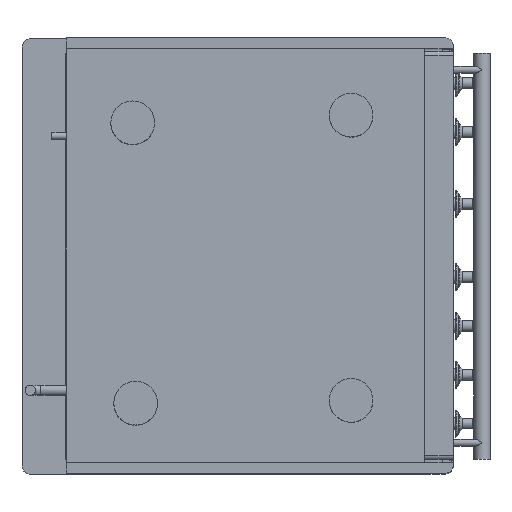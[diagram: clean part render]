
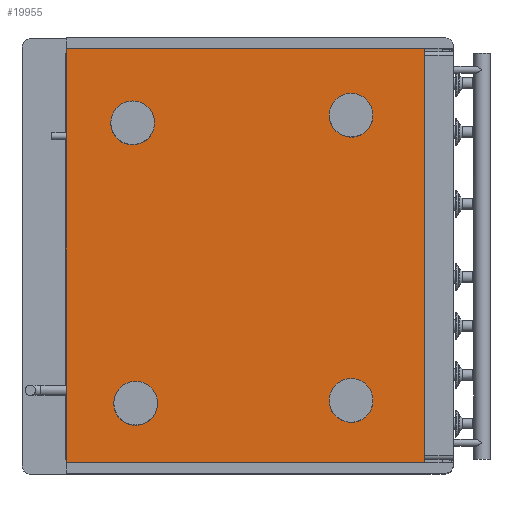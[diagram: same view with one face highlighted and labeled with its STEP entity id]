
A CAD part, top view. The second image highlights one B-rep face of the part: STEP entity #19955.
In plain terms, the highlighted planar face has unit normal (0, 0, 1).
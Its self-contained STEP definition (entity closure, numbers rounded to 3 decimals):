
#212=B_SPLINE_CURVE_WITH_KNOTS('',3,(#30015,#30016,#30017,#30018,#30019,
#30020,#30021,#30022,#30023,#30024,#30025),.UNSPECIFIED.,.F.,.F.,(4,1,1,
1,1,1,1,1,4),(0.,0.125,0.25,0.375,0.5,0.625,0.75,0.875,1.),
 .UNSPECIFIED.);
#213=B_SPLINE_CURVE_WITH_KNOTS('',3,(#30033,#30034,#30035,#30036,#30037,
#30038,#30039,#30040,#30041,#30042,#30043),.UNSPECIFIED.,.F.,.F.,(4,1,1,
1,1,1,1,1,4),(0.,0.125,0.25,0.375,0.5,0.625,0.75,0.875,1.),
 .UNSPECIFIED.);
#214=B_SPLINE_CURVE_WITH_KNOTS('',3,(#30051,#30052,#30053,#30054,#30055,
#30056,#30057,#30058,#30059,#30060,#30061),.UNSPECIFIED.,.F.,.F.,(4,1,1,
1,1,1,1,1,4),(0.,0.125,0.25,0.375,0.5,0.625,0.75,0.875,1.),
 .UNSPECIFIED.);
#215=B_SPLINE_CURVE_WITH_KNOTS('',3,(#30069,#30070,#30071,#30072,#30073,
#30074,#30075,#30076,#30077,#30078,#30079),.UNSPECIFIED.,.F.,.F.,(4,1,1,
1,1,1,1,1,4),(0.,0.125,0.25,0.375,0.5,0.625,0.75,0.875,1.),
 .UNSPECIFIED.);
#654=CIRCLE('',#21281,30.);
#656=CIRCLE('',#21285,30.);
#658=CIRCLE('',#21289,30.);
#660=CIRCLE('',#21293,30.);
#1147=PLANE('',#21296);
#2372=LINE('',#30084,#3612);
#2373=LINE('',#30087,#3613);
#2374=LINE('',#30089,#3614);
#2375=LINE('',#30091,#3615);
#3612=VECTOR('',#25104,1000.);
#3613=VECTOR('',#25105,1000.);
#3614=VECTOR('',#25106,1000.);
#3615=VECTOR('',#25107,1000.);
#7175=ORIENTED_EDGE('',*,*,#9467,.T.);
#7176=ORIENTED_EDGE('',*,*,#9466,.T.);
#7177=ORIENTED_EDGE('',*,*,#9470,.T.);
#7178=ORIENTED_EDGE('',*,*,#9469,.T.);
#7179=ORIENTED_EDGE('',*,*,#9473,.T.);
#7180=ORIENTED_EDGE('',*,*,#9472,.T.);
#7181=ORIENTED_EDGE('',*,*,#9476,.T.);
#7182=ORIENTED_EDGE('',*,*,#9475,.T.);
#7183=ORIENTED_EDGE('',*,*,#9478,.F.);
#7184=ORIENTED_EDGE('',*,*,#9479,.F.);
#7185=ORIENTED_EDGE('',*,*,#9480,.F.);
#7186=ORIENTED_EDGE('',*,*,#9481,.F.);
#9466=EDGE_CURVE('',#10911,#10912,#654,.T.);
#9467=EDGE_CURVE('',#10912,#10911,#212,.T.);
#9469=EDGE_CURVE('',#10914,#10915,#656,.T.);
#9470=EDGE_CURVE('',#10915,#10914,#213,.T.);
#9472=EDGE_CURVE('',#10917,#10918,#658,.T.);
#9473=EDGE_CURVE('',#10918,#10917,#214,.T.);
#9475=EDGE_CURVE('',#10920,#10921,#660,.T.);
#9476=EDGE_CURVE('',#10921,#10920,#215,.T.);
#9478=EDGE_CURVE('',#10923,#10924,#2372,.T.);
#9479=EDGE_CURVE('',#10925,#10923,#2373,.T.);
#9480=EDGE_CURVE('',#10926,#10925,#2374,.T.);
#9481=EDGE_CURVE('',#10924,#10926,#2375,.T.);
#10911=VERTEX_POINT('',#30013);
#10912=VERTEX_POINT('',#30014);
#10914=VERTEX_POINT('',#30031);
#10915=VERTEX_POINT('',#30032);
#10917=VERTEX_POINT('',#30049);
#10918=VERTEX_POINT('',#30050);
#10920=VERTEX_POINT('',#30067);
#10921=VERTEX_POINT('',#30068);
#10923=VERTEX_POINT('',#30085);
#10924=VERTEX_POINT('',#30086);
#10925=VERTEX_POINT('',#30088);
#10926=VERTEX_POINT('',#30090);
#12065=EDGE_LOOP('',(#7175,#7176));
#12066=EDGE_LOOP('',(#7177,#7178));
#12067=EDGE_LOOP('',(#7179,#7180));
#12068=EDGE_LOOP('',(#7181,#7182));
#12069=EDGE_LOOP('',(#7183,#7184,#7185,#7186));
#13091=FACE_BOUND('',#12065,.T.);
#13092=FACE_BOUND('',#12066,.T.);
#13093=FACE_BOUND('',#12067,.T.);
#13094=FACE_BOUND('',#12068,.T.);
#13095=FACE_BOUND('',#12069,.T.);
#19955=ADVANCED_FACE('',(#13091,#13092,#13093,#13094,#13095),#1147,.F.);
#21281=AXIS2_PLACEMENT_3D('',#30012,#25072,#25073);
#21285=AXIS2_PLACEMENT_3D('',#30030,#25080,#25081);
#21289=AXIS2_PLACEMENT_3D('',#30048,#25088,#25089);
#21293=AXIS2_PLACEMENT_3D('',#30066,#25096,#25097);
#21296=AXIS2_PLACEMENT_3D('',#30083,#25102,#25103);
#25072=DIRECTION('',(0.,0.,-1.));
#25073=DIRECTION('',(-1.,0.,0.));
#25080=DIRECTION('',(0.,0.,-1.));
#25081=DIRECTION('',(-1.,0.,0.));
#25088=DIRECTION('',(0.,0.,-1.));
#25089=DIRECTION('',(-1.,0.,0.));
#25096=DIRECTION('',(0.,0.,-1.));
#25097=DIRECTION('',(-1.,0.,0.));
#25102=DIRECTION('',(0.,0.,-1.));
#25103=DIRECTION('',(0.,1.,0.));
#25104=DIRECTION('',(-1.,0.,0.));
#25105=DIRECTION('',(0.,-1.,0.));
#25106=DIRECTION('',(1.,0.,0.));
#25107=DIRECTION('',(0.,1.,0.));
#30012=CARTESIAN_POINT('',(-436.,-502.022,757.));
#30013=CARTESIAN_POINT('',(-466.,-502.022,757.));
#30014=CARTESIAN_POINT('',(-406.,-502.022,757.));
#30015=CARTESIAN_POINT('',(-406.,-502.022,757.));
#30016=CARTESIAN_POINT('',(-406.,-505.949,757.));
#30017=CARTESIAN_POINT('',(-407.562,-513.801,757.));
#30018=CARTESIAN_POINT('',(-414.235,-523.787,757.));
#30019=CARTESIAN_POINT('',(-424.221,-530.46,757.));
#30020=CARTESIAN_POINT('',(-436.,-532.803,757.));
#30021=CARTESIAN_POINT('',(-447.779,-530.46,757.));
#30022=CARTESIAN_POINT('',(-457.765,-523.787,757.));
#30023=CARTESIAN_POINT('',(-464.438,-513.801,757.));
#30024=CARTESIAN_POINT('',(-466.,-505.949,757.));
#30025=CARTESIAN_POINT('',(-466.,-502.022,757.));
#30030=CARTESIAN_POINT('',(-140.239,-106.5,757.));
#30031=CARTESIAN_POINT('',(-170.239,-106.5,757.));
#30032=CARTESIAN_POINT('',(-110.239,-106.5,757.));
#30033=CARTESIAN_POINT('',(-110.239,-106.5,757.));
#30034=CARTESIAN_POINT('',(-110.239,-110.427,757.));
#30035=CARTESIAN_POINT('',(-111.801,-118.279,757.));
#30036=CARTESIAN_POINT('',(-118.473,-128.266,757.));
#30037=CARTESIAN_POINT('',(-128.459,-134.938,757.));
#30038=CARTESIAN_POINT('',(-140.239,-137.281,757.));
#30039=CARTESIAN_POINT('',(-152.018,-134.938,757.));
#30040=CARTESIAN_POINT('',(-162.004,-128.266,757.));
#30041=CARTESIAN_POINT('',(-168.676,-118.279,757.));
#30042=CARTESIAN_POINT('',(-170.238,-110.427,757.));
#30043=CARTESIAN_POINT('',(-170.239,-106.5,757.));
#30048=CARTESIAN_POINT('',(-440.053,-117.043,757.));
#30049=CARTESIAN_POINT('',(-470.053,-117.043,757.));
#30050=CARTESIAN_POINT('',(-410.053,-117.043,757.));
#30051=CARTESIAN_POINT('',(-410.053,-117.043,757.));
#30052=CARTESIAN_POINT('',(-410.053,-120.97,757.));
#30053=CARTESIAN_POINT('',(-411.615,-128.822,757.));
#30054=CARTESIAN_POINT('',(-418.288,-138.809,757.));
#30055=CARTESIAN_POINT('',(-428.274,-145.481,757.));
#30056=CARTESIAN_POINT('',(-440.053,-147.824,757.));
#30057=CARTESIAN_POINT('',(-451.833,-145.481,757.));
#30058=CARTESIAN_POINT('',(-461.819,-138.809,757.));
#30059=CARTESIAN_POINT('',(-468.491,-128.822,757.));
#30060=CARTESIAN_POINT('',(-470.053,-120.97,757.));
#30061=CARTESIAN_POINT('',(-470.053,-117.043,757.));
#30066=CARTESIAN_POINT('',(-140.149,-498.19,757.));
#30067=CARTESIAN_POINT('',(-170.149,-498.19,757.));
#30068=CARTESIAN_POINT('',(-110.149,-498.19,757.));
#30069=CARTESIAN_POINT('',(-110.149,-498.19,757.));
#30070=CARTESIAN_POINT('',(-110.149,-502.117,757.));
#30071=CARTESIAN_POINT('',(-111.711,-509.969,757.));
#30072=CARTESIAN_POINT('',(-118.383,-519.955,757.));
#30073=CARTESIAN_POINT('',(-128.369,-526.628,757.));
#30074=CARTESIAN_POINT('',(-140.149,-528.971,757.));
#30075=CARTESIAN_POINT('',(-151.928,-526.628,757.));
#30076=CARTESIAN_POINT('',(-161.914,-519.955,757.));
#30077=CARTESIAN_POINT('',(-168.587,-509.969,757.));
#30078=CARTESIAN_POINT('',(-170.149,-502.117,757.));
#30079=CARTESIAN_POINT('',(-170.149,-498.19,757.));
#30083=CARTESIAN_POINT('',(-285.,-299.,757.));
#30084=CARTESIAN_POINT('',(-39.,-583.,757.));
#30085=CARTESIAN_POINT('',(-39.,-583.,757.));
#30086=CARTESIAN_POINT('',(-531.,-583.,757.));
#30087=CARTESIAN_POINT('',(-39.,-15.,757.));
#30088=CARTESIAN_POINT('',(-39.,-15.,757.));
#30089=CARTESIAN_POINT('',(-531.,-15.,757.));
#30090=CARTESIAN_POINT('',(-531.,-15.,757.));
#30091=CARTESIAN_POINT('',(-531.,-583.,757.));
